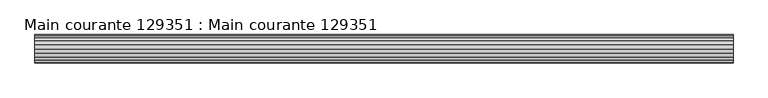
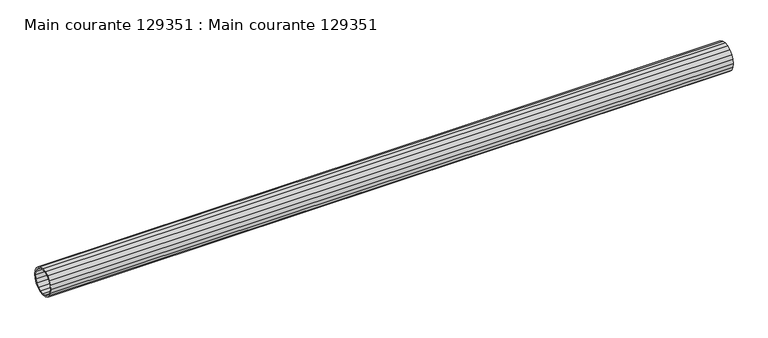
"""IFC4 building model written with IfcOpenShell, lengths in millimetres: beam geometry, Main courante 129351 : Main courante 129351."""

from ifc_helpers import new_model, si_unit, frame, origin, place, context, project, spatial, polyline, outline, extrude, source, transform, mapped, element, save


def main_courante_129351_main_courante_129351_a9303f10(model_context):
    return source(origin(), model_context, "Body", "SweptSolid", [
        extrude(outline(polyline([(-14166.5, 8765.0), (-14165.3180149, 8772.4627604), (-14161.8877604, 8779.1950138), (-14156.5450138, 8784.5377604), (-14149.8127604, 8787.9680149), (-14142.35, 8789.15), (-14134.8872396, 8787.9680149), (-14128.1549862, 8784.5377604), (-14122.8122396, 8779.1950138), (-14119.3819851, 8772.4627604), (-14118.2, 8765.0), (-14119.3819851, 8757.5372396), (-14122.8122396, 8750.8049862), (-14128.1549862, 8745.4622396), (-14134.8872396, 8742.0319851), (-14142.35, 8740.85), (-14149.8127604, 8742.0319851), (-14156.5450138, 8745.4622396), (-14161.8877604, 8750.8049862), (-14165.3180149, 8757.5372396), (-14166.5, 8765.0)]), holes=[polyline([(-14120.7, 8765.0), (-14121.7596264, 8771.6902179), (-14124.8347821, 8777.7255507), (-14129.6244493, 8782.5152179), (-14135.6597821, 8785.5903736), (-14142.35, 8786.65), (-14149.0402179, 8785.5903736), (-14155.0755507, 8782.5152179), (-14159.8652179, 8777.7255507), (-14162.9403736, 8771.6902179), (-14164.0, 8765.0), (-14162.9403736, 8758.3097821), (-14159.8652179, 8752.2744493), (-14155.0755507, 8747.4847821), (-14149.0402179, 8744.4096264), (-14142.35, 8743.35), (-14135.6597821, 8744.4096264), (-14129.6244493, 8747.4847821), (-14124.8347821, 8752.2744493), (-14121.7596264, 8758.3097821), (-14120.7, 8765.0)])]), frame((2478.4999999, 0.0, 0.0), z_axis=(1.0, 0.0, 0.0), x_axis=(0.0, 1.0, 0.0)), (0.0, 0.0, 1.0), 1192.0),
    ])


if __name__ == "__main__":
    model = new_model("IFC4")
    model_context = context("Model", 3, world=origin())
    ifc_project = project(units=[si_unit("LENGTHUNIT", "METRE", prefix="MILLI")], contexts=[model_context])
    site = spatial("IfcSite", under=ifc_project)
    building = spatial("IfcBuilding", under=site)
    placement = place(None, origin())
    main_courante_129351_main_courante_129351_shape = main_courante_129351_main_courante_129351_a9303f10(model_context)
    element("IfcBeam", 1, ObjectType="Main courante 129351 : Main courante 129351", at=placement, inside=building, context=model_context, shape_type="MappedRepresentation", body=[
        mapped(main_courante_129351_main_courante_129351_shape, transform((0.0, 0.0, 0.0), x_axis=(1.0, 0.0, 0.0), y_axis=(0.0, 1.0, 0.0), z_axis=(0.0, 0.0, 1.0))),
    ])
    save(model, "model.ifc")
